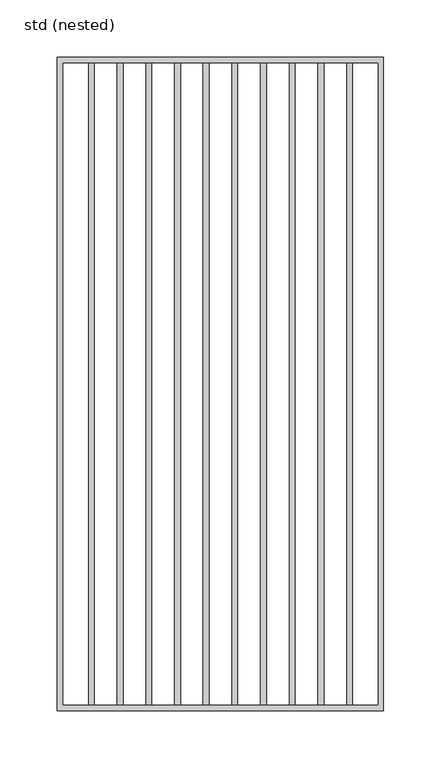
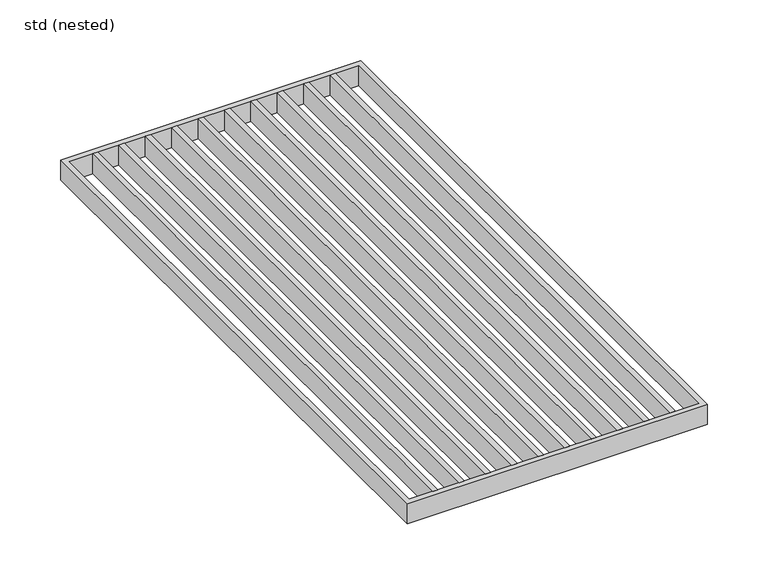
"""IFC4 building model written with IfcOpenShell, lengths in millimetres: sanitary terminal geometry, ZZZ_do not use_PF_ST_UN_grating for high capacity gully_ACO : std (nested)."""

import ifcopenshell
import ifcopenshell.guid

model = None  # the IFC model being written
_history = None  # IfcOwnerHistory: only IFC2X3 demands one
_inside = {}  # id of a spatial element -> (the spatial element, [elements in it])
_under = {}  # id of a project, library or spatial element -> (it, [spatial elements below it])
_declared = {}  # id of a project -> (the project, [libraries it declares])
_typed = {}  # id of a type object -> (the type object, [elements of that type])
_made_of = {}  # id of a material, layer set ... -> (it, [elements and type objects made of it])


def new_model(schema):
    """Start an empty IFC model of exactly this schema.

    Asked for "IFC4X3", IfcOpenShell would pick the latest addendum, in which some entities
    have other attributes; the version numbers below select the first issue.
    IFC2X3 requires an IfcOwnerHistory on every rooted entity: one is made here for all.
    """
    global model, _history
    if schema == "IFC4X3":
        model = ifcopenshell.file(schema_version=(4, 3, 0, 0))
    else:
        model = ifcopenshell.file(schema=schema)
    _inside.clear()
    _under.clear()
    _declared.clear()
    _typed.clear()
    _made_of.clear()
    _history = None
    if model.schema == "IFC2X3":
        org = make("IfcOrganization", Name="unknown")
        user = make(
            "IfcPersonAndOrganization",
            ThePerson=make("IfcPerson", FamilyName="unknown"),
            TheOrganization=org,
        )
        app = make(
            "IfcApplication",
            ApplicationDeveloper=org,
            Version="unknown",
            ApplicationFullName="unknown",
            ApplicationIdentifier="unknown",
        )
        _history = make(
            "IfcOwnerHistory",
            OwningUser=user,
            OwningApplication=app,
            ChangeAction="ADDED",
            CreationDate=0,
        )
    return model


def make(cls, **values):
    """One entity of the class cls with the attributes given. An attribute that is None is left unset."""
    return model.create_entity(
        cls, **{name: value for name, value in values.items() if value is not None}
    )


def rooted(cls, **values):
    """An entity with a GlobalId (a new one), such as an element, a storey or a relation."""
    return make(cls, GlobalId=ifcopenshell.guid.new(), OwnerHistory=_history, **values)


def si_unit(unit_type, name, prefix=None):
    """IfcSIUnit, for example si_unit("LENGTHUNIT", "METRE", prefix="MILLI")."""
    return make("IfcSIUnit", UnitType=unit_type, Prefix=prefix, Name=name)


def assignment(units):
    """IfcUnitAssignment: the units of a project."""
    return None if units is None else make("IfcUnitAssignment", Units=units)


def point(xyz):
    """IfcCartesianPoint."""
    return None if xyz is None else make("IfcCartesianPoint", Coordinates=xyz)


def direction(xyz):
    """IfcDirection."""
    return None if xyz is None else make("IfcDirection", DirectionRatios=xyz)


def frame(location, z_axis=None, x_axis=None):
    """IfcAxis2Placement3D, a coordinate frame: its origin and axes. An axis left out is left unset."""
    return make(
        "IfcAxis2Placement3D",
        Location=point(location),
        Axis=direction(z_axis),
        RefDirection=direction(x_axis),
    )


def origin():
    """The frame at (0, 0, 0) with its axes left unset."""
    return frame((0.0, 0.0, 0.0))


def place(relative_to, where):
    """IfcLocalPlacement: puts the frame where relative to a parent placement (None: the world)."""
    return make(
        "IfcLocalPlacement", PlacementRelTo=relative_to, RelativePlacement=where
    )


def context(
    kind, dimensions, precision=None, world=None, true_north=None, identifier=None
):
    """IfcGeometricRepresentationContext, for example the 3D "Model" context."""
    return make(
        "IfcGeometricRepresentationContext",
        ContextIdentifier=identifier,
        ContextType=kind,
        CoordinateSpaceDimension=dimensions,
        Precision=precision,
        WorldCoordinateSystem=world,
        TrueNorth=true_north,
    )


def project(units=None, contexts=None):
    """IfcProject with its units and contexts."""
    return rooted(
        "IfcProject",
        Name="project",
        RepresentationContexts=contexts,
        UnitsInContext=assignment(units),
    )


def spatial(cls, under=None, at=None, **own):
    """A site, building, storey or space (cls), placed at a placement, below another one or the project."""
    s = rooted(cls, ObjectPlacement=at, **own)
    if under is not None:
        _under.setdefault(under.id(), (under, []))[1].append(s)
    return s


def polyline(points):
    """IfcPolyline through the points."""
    return make("IfcPolyline", Points=[point(p) for p in points])


def outline(outer, holes=None, kind="AREA"):
    """IfcArbitraryClosedProfileDef: a profile drawn as a closed curve; with holes, ...WithVoids."""
    if holes is None:
        return make("IfcArbitraryClosedProfileDef", ProfileType=kind, OuterCurve=outer)
    return make(
        "IfcArbitraryProfileDefWithVoids",
        ProfileType=kind,
        OuterCurve=outer,
        InnerCurves=holes,
    )


def extrude(swept, where, along, depth):
    """IfcExtrudedAreaSolid: the profile swept, set in the frame where, extruded along a direction by depth."""
    return make(
        "IfcExtrudedAreaSolid",
        SweptArea=swept,
        Position=where,
        ExtrudedDirection=direction(along),
        Depth=depth,
    )


def shape(context_of_items, identifier, shape_type, items):
    """IfcShapeRepresentation: the items that make up one representation, for example the "Body"."""
    return make(
        "IfcShapeRepresentation",
        ContextOfItems=context_of_items,
        RepresentationIdentifier=identifier,
        RepresentationType=shape_type,
        Items=items,
    )


def source(mapping_origin, context_of_items, identifier, shape_type, items):
    """IfcRepresentationMap: a shape defined once, which mapped items show again and again."""
    return make(
        "IfcRepresentationMap",
        MappingOrigin=mapping_origin,
        MappedRepresentation=shape(context_of_items, identifier, shape_type, items),
    )


def transform(
    local_origin,
    x_axis=None,
    y_axis=None,
    z_axis=None,
    scale=None,
    scale2=None,
    scale3=None,
    uniform=True,
):
    """IfcCartesianTransformationOperator3D, or its non-uniform kind. x_axis, y_axis, z_axis: its Axis1, 2, 3."""
    if uniform:
        return make(
            "IfcCartesianTransformationOperator3D",
            Axis1=direction(x_axis),
            Axis2=direction(y_axis),
            LocalOrigin=point(local_origin),
            Scale=scale,
            Axis3=direction(z_axis),
        )
    return make(
        "IfcCartesianTransformationOperator3DnonUniform",
        Axis1=direction(x_axis),
        Axis2=direction(y_axis),
        LocalOrigin=point(local_origin),
        Scale=scale,
        Axis3=direction(z_axis),
        Scale2=scale2,
        Scale3=scale3,
    )


def mapped(mapping_source, mapping_target):
    """IfcMappedItem: shows the shape of a source again, moved by a transform."""
    return make(
        "IfcMappedItem", MappingSource=mapping_source, MappingTarget=mapping_target
    )


def made_of(thing, what):
    """Note that an element or type object is made of a material, layer set ...; save() writes the relation."""
    if what is not None:
        _made_of.setdefault(what.id(), (what, []))[1].append(thing)
    return thing


def element(
    cls,
    number,
    at=None,
    inside=None,
    cuts=None,
    type_object=None,
    material=None,
    context=None,
    identifier="Body",
    shape_type=None,
    held_by="IfcProductDefinitionShape",
    body=None,
    shapes=None,
    **own,
):
    """One element of the class cls, such as IfcWall. Its Tag is "e" and its number.

    at: its placement. inside: the storey or other place that contains it. cuts: it is an
    opening in that element (IfcRelVoidsElement). A single representation is given by context,
    identifier, shape_type and body (its items); several are given by shapes. held_by: the class
    of the entity that holds the representations. save() writes the other relations.
    """
    e = rooted(cls, Tag="e%d" % number, ObjectPlacement=at, **own)
    if body is not None:
        shapes = [shape(context, identifier, shape_type, body)]
    if shapes is not None:
        e.Representation = make(held_by, Representations=shapes)
    if inside is not None:
        _inside.setdefault(inside.id(), (inside, []))[1].append(e)
    if cuts is not None:
        rooted(
            "IfcRelVoidsElement", RelatingBuildingElement=cuts, RelatedOpeningElement=e
        )
    if type_object is not None:
        _typed.setdefault(type_object.id(), (type_object, []))[1].append(e)
    return made_of(e, material)


def aggregate(whole, parts):
    """IfcRelAggregates: a whole, such as a stair, and the parts it consists of."""
    return rooted("IfcRelAggregates", RelatingObject=whole, RelatedObjects=parts)


def save(model, path):
    """Write the relations noted so far, then the file.

    IfcRelAggregates (storeys below a building ...), IfcRelContainedInSpatialStructure (elements
    in a storey), IfcRelDefinesByType, IfcRelAssociatesMaterial and IfcRelDeclares: one each for
    every whole, place, type object, material and project.
    """
    for whole, parts in _under.values():
        aggregate(whole, parts)
    for where, things in _inside.values():
        rooted(
            "IfcRelContainedInSpatialStructure",
            RelatedElements=things,
            RelatingStructure=where,
        )
    for kind, things in _typed.values():
        rooted("IfcRelDefinesByType", RelatedObjects=things, RelatingType=kind)
    for what, things in _made_of.values():
        rooted("IfcRelAssociatesMaterial", RelatedObjects=things, RelatingMaterial=what)
    for by, libraries in _declared.values():
        rooted("IfcRelDeclares", RelatingContext=by, RelatedDefinitions=libraries)
    model.write(path)


def std_nested_7e2e888d(model_context):
    return source(origin(), model_context, "Body", "SweptSolid", [
        extrude(outline(polyline([(-115.0, -279.0), (-115.0, 279.0), (-110.0, 279.0), (-110.0, -279.0), (-115.0, -279.0)])), frame((0.0, 0.0, -20.0), z_axis=(0.0, 0.0, 1.0), x_axis=(1.0, 0.0, 0.0)), (0.0, 0.0, 1.0), 20.0),
        extrude(outline(polyline([(-90.0, -279.0), (-90.0, 279.0), (-85.0, 279.0), (-85.0, -279.0), (-90.0, -279.0)])), frame((0.0, 0.0, -20.0), z_axis=(0.0, 0.0, 1.0), x_axis=(1.0, 0.0, 0.0)), (0.0, 0.0, 1.0), 20.0),
        extrude(outline(polyline([(-65.0, -279.0), (-65.0, 279.0), (-60.0, 279.0), (-60.0, -279.0), (-65.0, -279.0)])), frame((0.0, 0.0, -20.0), z_axis=(0.0, 0.0, 1.0), x_axis=(1.0, 0.0, 0.0)), (0.0, 0.0, 1.0), 20.0),
        extrude(outline(polyline([(-40.0, -279.0), (-40.0, 279.0), (-35.0, 279.0), (-35.0, -279.0), (-40.0, -279.0)])), frame((0.0, 0.0, -20.0), z_axis=(0.0, 0.0, 1.0), x_axis=(1.0, 0.0, 0.0)), (0.0, 0.0, 1.0), 20.0),
        extrude(outline(polyline([(115.0, -279.0), (110.0, -279.0), (110.0, 279.0), (115.0, 279.0), (115.0, -279.0)])), frame((0.0, 0.0, -20.0), z_axis=(0.0, 0.0, 1.0), x_axis=(1.0, 0.0, 0.0)), (0.0, 0.0, 1.0), 20.0),
        extrude(outline(polyline([(90.0, -279.0), (85.0, -279.0), (85.0, 279.0), (90.0, 279.0), (90.0, -279.0)])), frame((0.0, 0.0, -20.0), z_axis=(0.0, 0.0, 1.0), x_axis=(1.0, 0.0, 0.0)), (0.0, 0.0, 1.0), 20.0),
        extrude(outline(polyline([(65.0, -279.0), (60.0, -279.0), (60.0, 279.0), (65.0, 279.0), (65.0, -279.0)])), frame((0.0, 0.0, -20.0), z_axis=(0.0, 0.0, 1.0), x_axis=(1.0, 0.0, 0.0)), (0.0, 0.0, 1.0), 20.0),
        extrude(outline(polyline([(40.0, -279.0), (35.0, -279.0), (35.0, 279.0), (40.0, 279.0), (40.0, -279.0)])), frame((0.0, 0.0, -20.0), z_axis=(0.0, 0.0, 1.0), x_axis=(1.0, 0.0, 0.0)), (0.0, 0.0, 1.0), 20.0),
        extrude(outline(polyline([(-15.0, -279.0), (-15.0, 279.0), (-10.0, 279.0), (-10.0, -279.0), (-15.0, -279.0)])), frame((0.0, 0.0, -20.0), z_axis=(0.0, 0.0, 1.0), x_axis=(1.0, 0.0, 0.0)), (0.0, 0.0, 1.0), 20.0),
        extrude(outline(polyline([(15.0, -279.0), (10.0, -279.0), (10.0, 279.0), (15.0, 279.0), (15.0, -279.0)])), frame((0.0, 0.0, -20.0), z_axis=(0.0, 0.0, 1.0), x_axis=(1.0, 0.0, 0.0)), (0.0, 0.0, 1.0), 20.0),
        extrude(outline(polyline([(142.0, -284.0), (-142.0, -284.0), (-142.0, 284.0), (142.0, 284.0), (142.0, -284.0)]), holes=[polyline([(137.0, -279.0), (137.0, 279.0), (-137.0, 279.0), (-137.0, -279.0), (137.0, -279.0)])]), frame((0.0, 0.0, -20.0), z_axis=(0.0, 0.0, 1.0), x_axis=(1.0, 0.0, 0.0)), (0.0, 0.0, 1.0), 20.0),
    ])


if __name__ == "__main__":
    model = new_model("IFC4")
    model_context = context("Model", 3, world=origin())
    ifc_project = project(units=[si_unit("LENGTHUNIT", "METRE", prefix="MILLI")], contexts=[model_context])
    site = spatial("IfcSite", under=ifc_project)
    building = spatial("IfcBuilding", under=site)
    placement = place(None, origin())
    std_nested_shape = std_nested_7e2e888d(model_context)
    element("IfcSanitaryTerminal", 1, ObjectType="ZZZ_do not use_PF_ST_UN_grating for high capacity gully_ACO : std (nested)", at=placement, inside=building, context=model_context, shape_type="MappedRepresentation", body=[
        mapped(std_nested_shape, transform((0.0, 0.0, 0.0), x_axis=(1.0, 0.0, 0.0), y_axis=(0.0, 1.0, 0.0), z_axis=(0.0, 0.0, 1.0))),
    ])
    save(model, "model.ifc")
